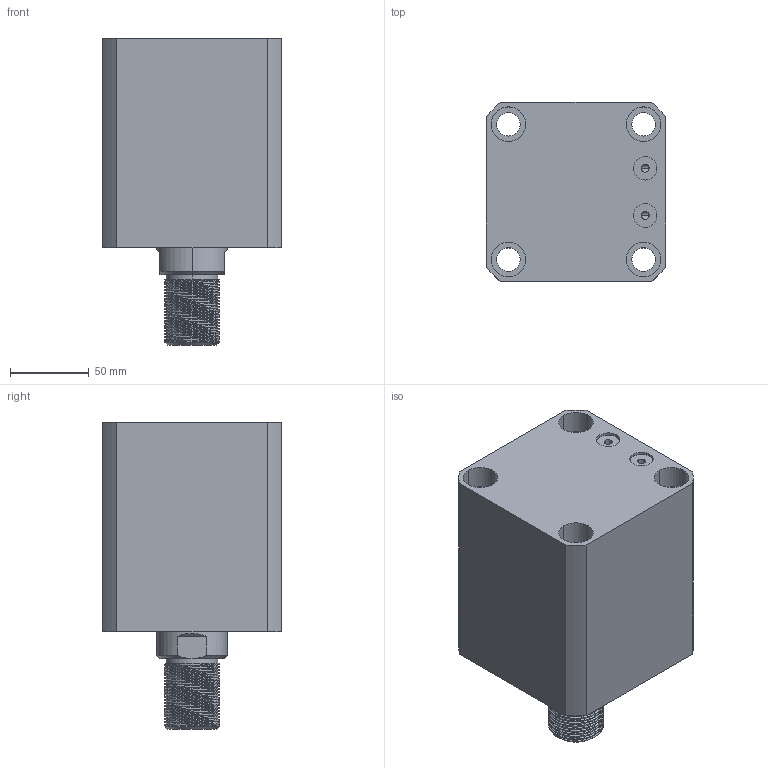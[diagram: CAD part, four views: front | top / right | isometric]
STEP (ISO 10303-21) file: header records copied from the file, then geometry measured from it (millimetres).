
FILE_DESCRIPTION (( 'STEP AP214' ), '1' );
FILE_NAME ('chtb-sdmb80x55w_asm.STEP', '2018-05-26T01:54:02', ( 'Windows' ), ( 'Microsoft' ), 'SwSTEP 2.0', 'SolidWorks 2015', '' );
FILE_SCHEMA (( 'AUTOMOTIVE_DESIGN' ));
Length unit declared in the file: millimetre
Products named in the file (4): CHTB-SDMB80X55NBT; CHTB-SD80X55WHSG; CHTB-SD80QG; chtb-sdmb80x55w_asm
Assembly tree (3 placements, depth 2):
  chtb-sdmb80x55w_asm
    CHTB-SD80QG
    CHTB-SD80X55WHSG
    CHTB-SDMB80X55NBT
Bounding box: 114 x 114 x 195 mm (x, y, z)
Volume: 1448922.2 mm3; surface area: 210995.2 mm2
Topology: 3 solids, 3 shells, 238 faces, 658 edges, 441 vertices
Faces by surface type: cylinder 149, plane 39, torus 18, bspline 16, cone 16
Entity records: 19658 total; most frequent: CARTESIAN_POINT 13949, ORIENTED_EDGE 1308, DIRECTION 1029, EDGE_CURVE 654, VERTEX_POINT 441, AXIS2_PLACEMENT_3D 421, EDGE_LOOP 275, FACE_OUTER_BOUND 238
